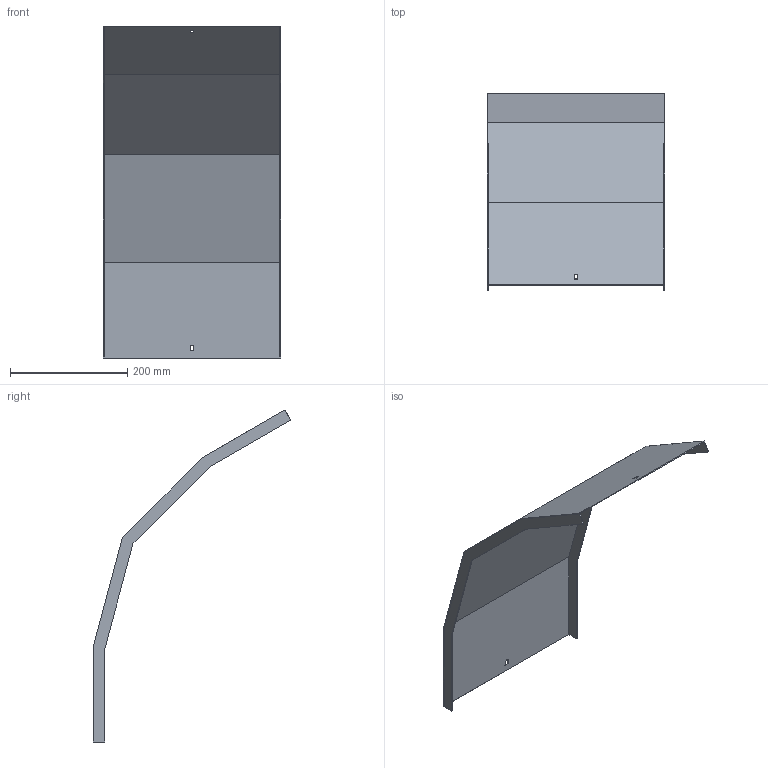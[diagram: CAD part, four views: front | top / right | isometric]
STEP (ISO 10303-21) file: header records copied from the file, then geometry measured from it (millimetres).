
FILE_DESCRIPTION (( 'STEP AP214' ), '1' );
FILE_NAME ('A2_41N3C300.step', '2025-02-21T10:39:14', ( '' ), ( '' ), 'SwSTEP 2.0', 'SolidWorks 2023', '' );
FILE_SCHEMA (( 'AUTOMOTIVE_DESIGN' ));
Length unit declared in the file: millimetre
Products named in the file (1): A2_41N3C300
Bounding box: 303 x 337.26 x 566.83 mm (x, y, z)
Volume: 361566 mm3; surface area: 485273.4 mm2
Topology: 1 solids, 1 shells, 30 faces, 84 edges, 56 vertices
Faces by surface type: plane 30
Entity records: 979 total; most frequent: CARTESIAN_POINT 171, ORIENTED_EDGE 168, DIRECTION 146, EDGE_CURVE 84, VECTOR 84, LINE 84, VERTEX_POINT 56, EDGE_LOOP 34
